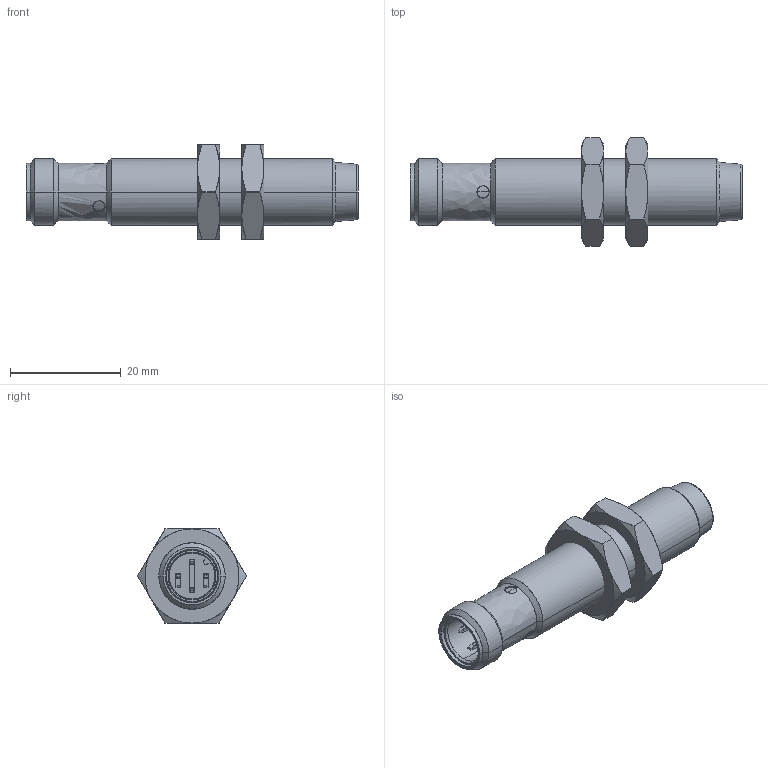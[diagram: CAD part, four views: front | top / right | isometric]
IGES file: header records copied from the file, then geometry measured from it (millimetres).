
Start section: Comment
Global section: file name: IFRM 12xx3T1_S14L.igs; native system:  By UGS Corp.; preprocessor: XPlus GENERIC/IGES 3.0; author: Author; organization: Title; date: 20100412.103530; units: millimetre
Bounding box: 60 x 19.63 x 17 mm (x, y, z)
Surface area: 4129.3 mm2 (no closed solid volume)
Topology: 0 solids, 0 shells, 173 faces, 846 edges, 846 vertices
Faces by surface type: bspline 173
